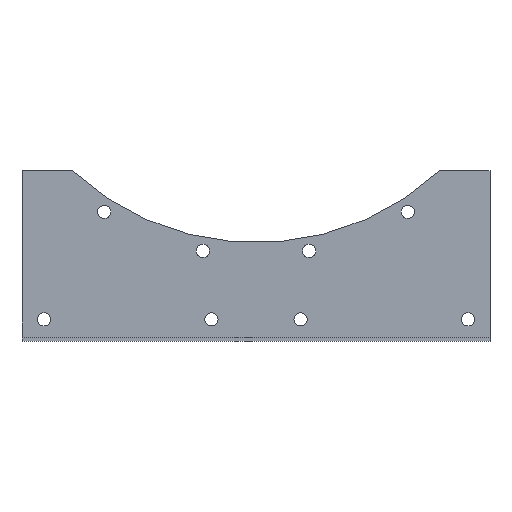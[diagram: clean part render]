
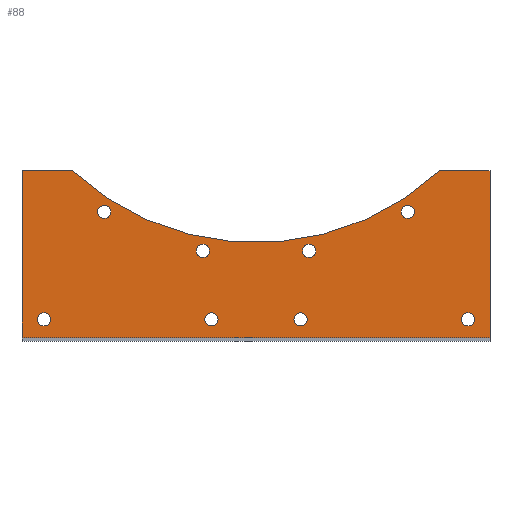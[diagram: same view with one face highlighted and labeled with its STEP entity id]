
A CAD part, top view. The second image highlights one B-rep face of the part: STEP entity #88.
In plain terms, the highlighted planar face has unit normal (0, 0, 1).
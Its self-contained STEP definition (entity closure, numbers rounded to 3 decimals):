
#88=ADVANCED_FACE('',(#184,#185,#186,#187,#188,#189,#190,#191,#192),#193,.T.);
#184=FACE_BOUND('',#285,.T.);
#185=FACE_BOUND('',#286,.T.);
#186=FACE_BOUND('',#287,.T.);
#187=FACE_BOUND('',#288,.T.);
#188=FACE_BOUND('',#289,.T.);
#189=FACE_BOUND('',#290,.T.);
#190=FACE_BOUND('',#291,.T.);
#191=FACE_BOUND('',#292,.T.);
#192=FACE_OUTER_BOUND('',#293,.T.);
#193=PLANE('',#294);
#285=EDGE_LOOP('',(#485,#486));
#286=EDGE_LOOP('',(#487,#488));
#287=EDGE_LOOP('',(#489,#490));
#288=EDGE_LOOP('',(#491,#492));
#289=EDGE_LOOP('',(#493,#494));
#290=EDGE_LOOP('',(#495,#496));
#291=EDGE_LOOP('',(#497,#498));
#292=EDGE_LOOP('',(#499,#500));
#293=EDGE_LOOP('',(#501,#502,#503,#504,#505,#506));
#294=AXIS2_PLACEMENT_3D('',#507,#508,#509);
#485=ORIENTED_EDGE('',*,*,#599,.T.);
#486=ORIENTED_EDGE('',*,*,#604,.T.);
#487=ORIENTED_EDGE('',*,*,#594,.T.);
#488=ORIENTED_EDGE('',*,*,#607,.T.);
#489=ORIENTED_EDGE('',*,*,#589,.T.);
#490=ORIENTED_EDGE('',*,*,#610,.T.);
#491=ORIENTED_EDGE('',*,*,#584,.T.);
#492=ORIENTED_EDGE('',*,*,#613,.T.);
#493=ORIENTED_EDGE('',*,*,#579,.T.);
#494=ORIENTED_EDGE('',*,*,#616,.T.);
#495=ORIENTED_EDGE('',*,*,#574,.T.);
#496=ORIENTED_EDGE('',*,*,#619,.T.);
#497=ORIENTED_EDGE('',*,*,#569,.T.);
#498=ORIENTED_EDGE('',*,*,#622,.T.);
#499=ORIENTED_EDGE('',*,*,#564,.T.);
#500=ORIENTED_EDGE('',*,*,#625,.T.);
#501=ORIENTED_EDGE('',*,*,#627,.T.);
#502=ORIENTED_EDGE('',*,*,#641,.F.);
#503=ORIENTED_EDGE('',*,*,#642,.F.);
#504=ORIENTED_EDGE('',*,*,#643,.F.);
#505=ORIENTED_EDGE('',*,*,#644,.F.);
#506=ORIENTED_EDGE('',*,*,#638,.F.);
#507=CARTESIAN_POINT('',(0.0,3.0,-17.0));
#508=DIRECTION('',(0.0,0.0,1.0));
#509=DIRECTION('',(1.0,0.0,0.0));
#564=EDGE_CURVE('',#664,#661,#665,.T.);
#569=EDGE_CURVE('',#673,#670,#674,.T.);
#574=EDGE_CURVE('',#682,#679,#683,.T.);
#579=EDGE_CURVE('',#691,#688,#692,.T.);
#584=EDGE_CURVE('',#700,#697,#701,.T.);
#589=EDGE_CURVE('',#709,#706,#710,.T.);
#594=EDGE_CURVE('',#718,#715,#719,.T.);
#599=EDGE_CURVE('',#727,#724,#728,.T.);
#604=EDGE_CURVE('',#724,#727,#734,.T.);
#607=EDGE_CURVE('',#715,#718,#737,.T.);
#610=EDGE_CURVE('',#706,#709,#740,.T.);
#613=EDGE_CURVE('',#697,#700,#743,.T.);
#616=EDGE_CURVE('',#688,#691,#746,.T.);
#619=EDGE_CURVE('',#679,#682,#749,.T.);
#622=EDGE_CURVE('',#670,#673,#752,.T.);
#625=EDGE_CURVE('',#661,#664,#755,.T.);
#627=EDGE_CURVE('',#757,#758,#759,.T.);
#638=EDGE_CURVE('',#757,#776,#777,.T.);
#641=EDGE_CURVE('',#780,#758,#781,.T.);
#642=EDGE_CURVE('',#782,#780,#783,.T.);
#643=EDGE_CURVE('',#784,#782,#785,.T.);
#644=EDGE_CURVE('',#776,#784,#786,.T.);
#661=VERTEX_POINT('',#807);
#664=VERTEX_POINT('',#811);
#665=CIRCLE('',#812,6.0);
#670=VERTEX_POINT('',#818);
#673=VERTEX_POINT('',#822);
#674=CIRCLE('',#823,6.0);
#679=VERTEX_POINT('',#829);
#682=VERTEX_POINT('',#833);
#683=CIRCLE('',#834,6.0);
#688=VERTEX_POINT('',#840);
#691=VERTEX_POINT('',#844);
#692=CIRCLE('',#845,6.0);
#697=VERTEX_POINT('',#851);
#700=VERTEX_POINT('',#855);
#701=CIRCLE('',#856,6.0);
#706=VERTEX_POINT('',#862);
#709=VERTEX_POINT('',#866);
#710=CIRCLE('',#867,6.0);
#715=VERTEX_POINT('',#873);
#718=VERTEX_POINT('',#877);
#719=CIRCLE('',#878,6.0);
#724=VERTEX_POINT('',#884);
#727=VERTEX_POINT('',#888);
#728=CIRCLE('',#889,6.0);
#734=CIRCLE('',#896,6.0);
#737=CIRCLE('',#899,6.0);
#740=CIRCLE('',#902,6.0);
#743=CIRCLE('',#905,6.0);
#746=CIRCLE('',#908,6.0);
#749=CIRCLE('',#911,6.0);
#752=CIRCLE('',#914,6.0);
#755=CIRCLE('',#917,6.0);
#757=VERTEX_POINT('',#919);
#758=VERTEX_POINT('',#920);
#759=CIRCLE('',#921,245.5);
#776=VERTEX_POINT('',#945);
#777=LINE('',#946,#947);
#780=VERTEX_POINT('',#951);
#781=LINE('',#952,#953);
#782=VERTEX_POINT('',#954);
#783=LINE('',#955,#956);
#784=VERTEX_POINT('',#957);
#785=LINE('',#958,#959);
#786=LINE('',#960,#961);
#807=CARTESIAN_POINT('',(-186.5,-57.5,-17.0));
#811=CARTESIAN_POINT('',(-198.5,-57.5,-17.0));
#812=AXIS2_PLACEMENT_3D('',#991,#992,#993);
#818=CARTESIAN_POINT('',(198.5,-57.5,-17.0));
#822=CARTESIAN_POINT('',(186.5,-57.5,-17.0));
#823=AXIS2_PLACEMENT_3D('',#999,#1000,#1001);
#829=CARTESIAN_POINT('',(-34.5,-57.5,-17.0));
#833=CARTESIAN_POINT('',(-46.5,-57.5,-17.0));
#834=AXIS2_PLACEMENT_3D('',#1007,#1008,#1009);
#840=CARTESIAN_POINT('',(46.5,-57.5,-17.0));
#844=CARTESIAN_POINT('',(34.5,-57.5,-17.0));
#845=AXIS2_PLACEMENT_3D('',#1015,#1016,#1017);
#851=CARTESIAN_POINT('',(54.144,5.685,-17.0));
#855=CARTESIAN_POINT('',(42.357,3.437,-17.0));
#856=AXIS2_PLACEMENT_3D('',#1023,#1024,#1025);
#862=CARTESIAN_POINT('',(-42.357,3.437,-17.0));
#866=CARTESIAN_POINT('',(-54.144,5.685,-17.0));
#867=AXIS2_PLACEMENT_3D('',#1031,#1032,#1033);
#873=CARTESIAN_POINT('',(-132.909,36.871,-17.0));
#877=CARTESIAN_POINT('',(-143.041,43.301,-17.0));
#878=AXIS2_PLACEMENT_3D('',#1039,#1040,#1041);
#884=CARTESIAN_POINT('',(143.041,43.301,-17.0));
#888=CARTESIAN_POINT('',(132.909,36.871,-17.0));
#889=AXIS2_PLACEMENT_3D('',#1047,#1048,#1049);
#896=AXIS2_PLACEMENT_3D('',#1057,#1058,#1059);
#899=AXIS2_PLACEMENT_3D('',#1063,#1064,#1065);
#902=AXIS2_PLACEMENT_3D('',#1069,#1070,#1071);
#905=AXIS2_PLACEMENT_3D('',#1075,#1076,#1077);
#908=AXIS2_PLACEMENT_3D('',#1081,#1082,#1083);
#911=AXIS2_PLACEMENT_3D('',#1087,#1088,#1089);
#914=AXIS2_PLACEMENT_3D('',#1093,#1094,#1095);
#917=AXIS2_PLACEMENT_3D('',#1099,#1100,#1101);
#919=CARTESIAN_POINT('',(166.944,77.5,-17.0));
#920=CARTESIAN_POINT('',(-166.944,77.5,-17.0));
#921=AXIS2_PLACEMENT_3D('',#1102,#1103,#1104);
#945=CARTESIAN_POINT('',(212.5,77.5,-17.0));
#946=CARTESIAN_POINT('',(0.0,77.5,-17.0));
#947=VECTOR('',#1115,1.0);
#951=CARTESIAN_POINT('',(-212.5,77.5,-17.0));
#952=CARTESIAN_POINT('',(0.0,77.5,-17.0));
#953=VECTOR('',#1117,1.0);
#954=CARTESIAN_POINT('',(-212.5,-74.5,-17.0));
#955=CARTESIAN_POINT('',(-212.5,1.5,-17.0));
#956=VECTOR('',#1118,1.0);
#957=CARTESIAN_POINT('',(212.5,-74.5,-17.0));
#958=CARTESIAN_POINT('',(0.0,-74.5,-17.0));
#959=VECTOR('',#1119,1.0);
#960=CARTESIAN_POINT('',(212.5,1.5,-17.0));
#961=VECTOR('',#1120,1.0);
#991=CARTESIAN_POINT('',(-192.5,-57.5,-17.0));
#992=DIRECTION('',(0.0,0.0,-1.0));
#993=DIRECTION('',(1.0,0.0,0.0));
#999=CARTESIAN_POINT('',(192.5,-57.5,-17.0));
#1000=DIRECTION('',(0.0,0.0,-1.0));
#1001=DIRECTION('',(1.0,0.0,0.0));
#1007=CARTESIAN_POINT('',(-40.5,-57.5,-17.0));
#1008=DIRECTION('',(0.0,0.0,-1.0));
#1009=DIRECTION('',(1.0,0.0,0.0));
#1015=CARTESIAN_POINT('',(40.5,-57.5,-17.0));
#1016=DIRECTION('',(0.0,0.0,-1.0));
#1017=DIRECTION('',(1.0,0.0,0.0));
#1023=CARTESIAN_POINT('',(48.251,4.561,-17.0));
#1024=DIRECTION('',(0.0,0.0,-1.0));
#1025=DIRECTION('',(0.982,0.187,0.0));
#1031=CARTESIAN_POINT('',(-48.251,4.561,-17.0));
#1032=DIRECTION('',(0.0,-0.0,-1.0));
#1033=DIRECTION('',(0.982,-0.187,0.0));
#1039=CARTESIAN_POINT('',(-137.975,40.086,-17.0));
#1040=DIRECTION('',(0.0,-0.0,-1.0));
#1041=DIRECTION('',(0.844,-0.536,0.0));
#1047=CARTESIAN_POINT('',(137.975,40.086,-17.0));
#1048=DIRECTION('',(0.0,0.0,-1.0));
#1049=DIRECTION('',(0.844,0.536,0.0));
#1057=CARTESIAN_POINT('',(137.975,40.086,-17.0));
#1058=DIRECTION('',(0.0,0.0,-1.0));
#1059=DIRECTION('',(0.844,0.536,0.0));
#1063=CARTESIAN_POINT('',(-137.975,40.086,-17.0));
#1064=DIRECTION('',(0.0,-0.0,-1.0));
#1065=DIRECTION('',(0.844,-0.536,0.0));
#1069=CARTESIAN_POINT('',(-48.251,4.561,-17.0));
#1070=DIRECTION('',(0.0,-0.0,-1.0));
#1071=DIRECTION('',(0.982,-0.187,0.0));
#1075=CARTESIAN_POINT('',(48.251,4.561,-17.0));
#1076=DIRECTION('',(0.0,0.0,-1.0));
#1077=DIRECTION('',(0.982,0.187,0.0));
#1081=CARTESIAN_POINT('',(40.5,-57.5,-17.0));
#1082=DIRECTION('',(0.0,0.0,-1.0));
#1083=DIRECTION('',(1.0,0.0,0.0));
#1087=CARTESIAN_POINT('',(-40.5,-57.5,-17.0));
#1088=DIRECTION('',(0.0,0.0,-1.0));
#1089=DIRECTION('',(1.0,0.0,0.0));
#1093=CARTESIAN_POINT('',(192.5,-57.5,-17.0));
#1094=DIRECTION('',(0.0,0.0,-1.0));
#1095=DIRECTION('',(1.0,0.0,0.0));
#1099=CARTESIAN_POINT('',(-192.5,-57.5,-17.0));
#1100=DIRECTION('',(0.0,0.0,-1.0));
#1101=DIRECTION('',(1.0,0.0,0.0));
#1102=CARTESIAN_POINT('',(0.0,257.5,-17.0));
#1103=DIRECTION('',(0.0,0.0,-1.0));
#1104=DIRECTION('',(1.0,0.0,0.0));
#1115=DIRECTION('',(1.0,0.0,-0.0));
#1117=DIRECTION('',(1.0,0.0,-0.0));
#1118=DIRECTION('',(0.0,1.0,0.0));
#1119=DIRECTION('',(-1.0,0.0,0.0));
#1120=DIRECTION('',(0.0,-1.0,0.0));
